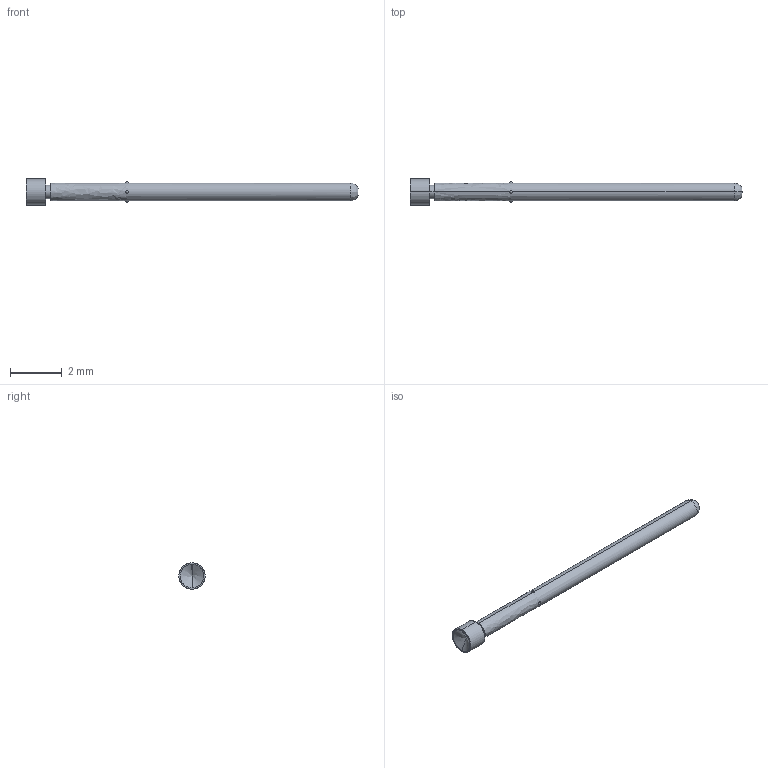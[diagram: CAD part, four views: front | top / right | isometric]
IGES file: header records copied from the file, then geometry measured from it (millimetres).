
Start section: SolidWorks IGES file using analytic representation for surfaces
Global section: file name: O:\PYLON\IGES FILES\P2662B\P2662B-2V1S FULL.IGS; native system: SolidWorks 2015; preprocessor: SolidWorks 2015; author: kgolden; date: 171019.092124; units: inch
Bounding box: 12.85 x 1.02 x 1.02 mm (x, y, z)
Surface area: 32.7 mm2 (no closed solid volume)
Topology: 0 solids, 0 shells, 24 faces, 256 edges, 238 vertices
Faces by surface type: revolution 18, bspline 6
